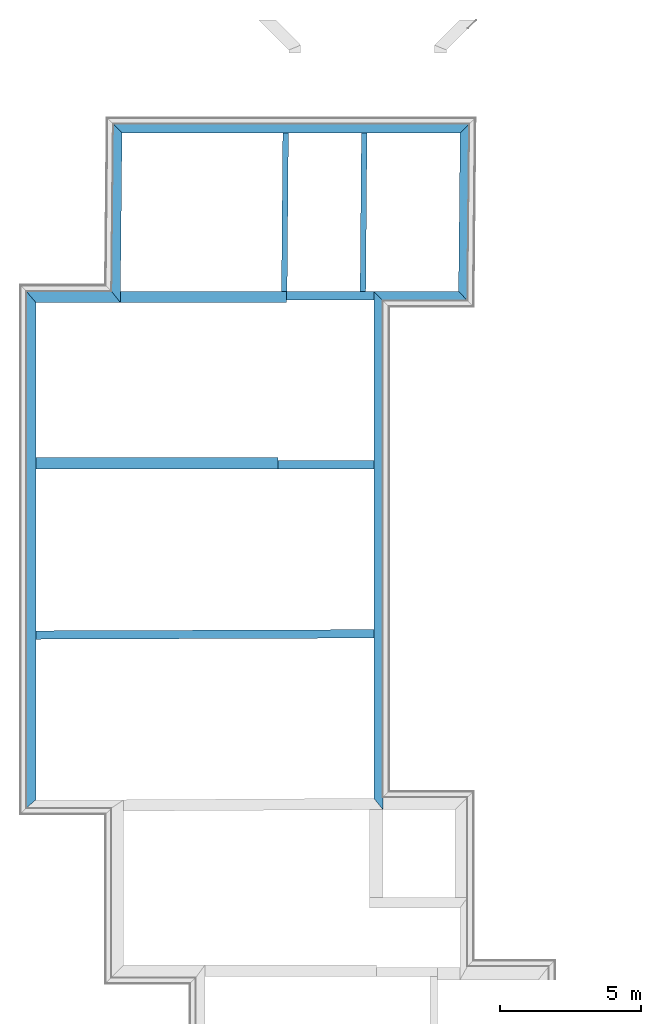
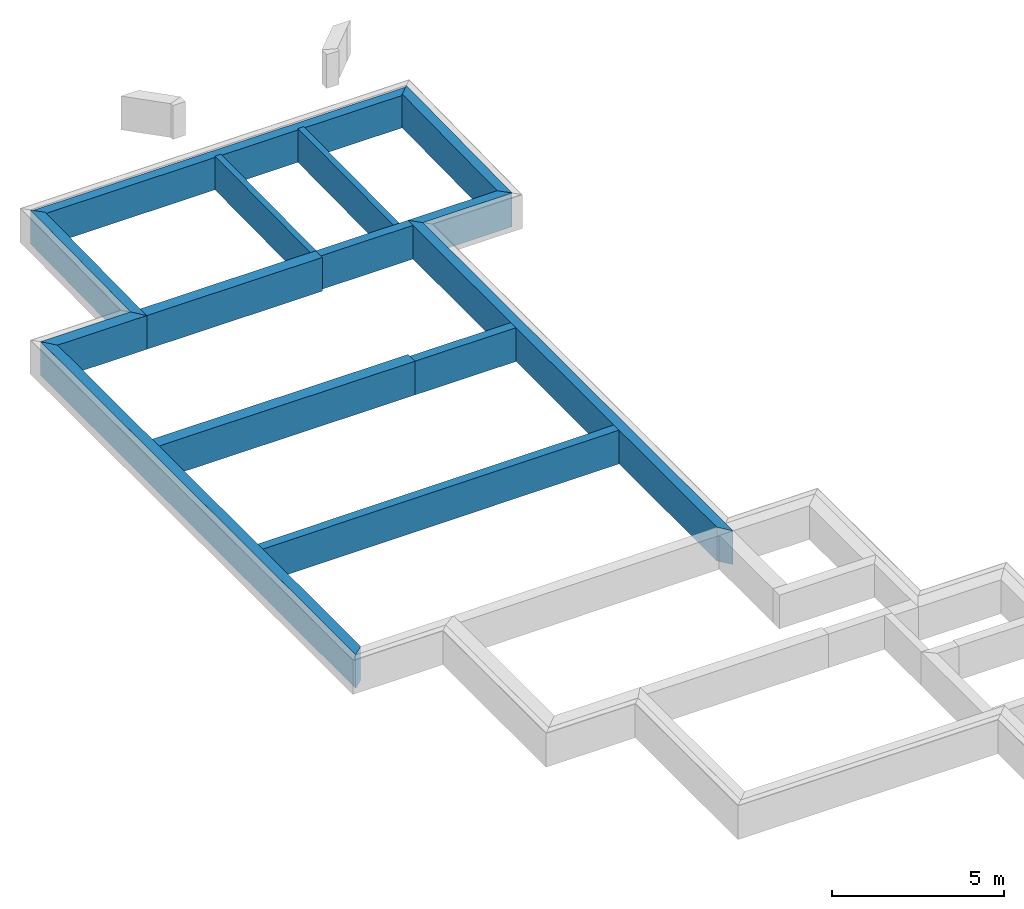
# One storey, part 8 of 16: 14 walls, 4 openings.
"""IFC2X3 building model written with IfcOpenShell, lengths in millimetres."""

from ifc_helpers import new_model, entity, si_unit, converted_unit, derived_unit, money_unit, direction, frame, origin_with_axes, origin_2d_with_axis, place, context, subcontext, project, spatial, polyline, rectangle, outline, extrude, material, layer, layer_set, layer_usage, type_object, element, save


model = new_model("IFC2X3")

# Units and contexts
model_context = context("Model", 3, precision=0.01, world=origin_with_axes(), true_north=direction((0.0, 1.0)))
body_context = subcontext(model_context, "Body", "Model", "MODEL_VIEW")
ifc_project = project(units=[si_unit("LENGTHUNIT", "METRE", prefix="MILLI"), si_unit("AREAUNIT", "SQUARE_METRE"), si_unit("VOLUMEUNIT", "CUBIC_METRE"), converted_unit("PLANEANGLEUNIT", "DEGREE", entity("IfcPlaneAngleMeasure", 0.0174532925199), si_unit("PLANEANGLEUNIT", "RADIAN"), dimensions=[0, 0, 0, 0, 0, 0, 0]), si_unit("SOLIDANGLEUNIT", "STERADIAN"), money_unit("EUR"), converted_unit("TIMEUNIT", "Year", entity("IfcTimeMeasure", 31556926.0), si_unit("TIMEUNIT", "SECOND"), dimensions=[0, 0, 1, 0, 0, 0, 0]), si_unit("MASSUNIT", "GRAM", prefix="KILO"), si_unit("THERMODYNAMICTEMPERATUREUNIT", "DEGREE_CELSIUS"), si_unit("LUMINOUSINTENSITYUNIT", "LUMEN"), si_unit("ENERGYUNIT", "JOULE", prefix="MEGA"), derived_unit("THERMALCONDUCTANCEUNIT", [(si_unit("POWERUNIT", "WATT"), 1), (si_unit("LENGTHUNIT", "METRE"), -1), (si_unit("THERMODYNAMICTEMPERATUREUNIT", "KELVIN"), -1)]), derived_unit("SPECIFICHEATCAPACITYUNIT", [(si_unit("ENERGYUNIT", "JOULE"), 1), (si_unit("MASSUNIT", "GRAM", prefix="KILO"), -1), (si_unit("THERMODYNAMICTEMPERATUREUNIT", "KELVIN"), -1)]), derived_unit("MASSDENSITYUNIT", [(si_unit("MASSUNIT", "GRAM", prefix="KILO"), 1), (si_unit("VOLUMEUNIT", "CUBIC_METRE"), -1)])], contexts=[model_context])

# Site, building, storey
site_placement = place(None, origin_with_axes())
site = spatial("IfcSite", under=ifc_project, at=site_placement, Name="Paldiski mnt 245/1, Tallinn, Harjumaa", CompositionType="COMPLEX")
building_placement = place(site_placement, origin_with_axes())
building = spatial("IfcBuilding", under=site, at=building_placement, Name="RKAS Hoone üldnimetus (kasutust iseloomustav) -> IFC Project Manager -> SOLIBRI", CompositionType="ELEMENT")
storey_placement = place(building_placement, frame((0.0, 0.0, -1200.0), z_axis=(0.0, 0.0, 1.0), x_axis=(1.0, 0.0, 0.0)))
storey = spatial("IfcBuildingStorey", under=building, at=storey_placement, Name="Vundament", CompositionType="ELEMENT", Elevation=-1200.0)

# Walls
ifc_material = material(Name="Olemasolev raudbetoonplokk")
ifc_layer_1 = layer(ifc_material, 320.0, ventilated="UNKNOWN")
ifc_layer_set_1 = layer_set([ifc_layer_1], Name="Olemasolev raudbetoonplokk 320")
ifc_layer_usage_1 = layer_usage(ifc_layer_set_1, "AXIS2", "POSITIVE", 0.0)
wall_type_1 = type_object("IfcWallType", Name="Olemasolev raudbetoonplokk 320", PredefinedType="NOTDEFINED")
wall_1_placement = place(storey_placement, frame((-59329.3073581, 35769.8287244, 0.0), z_axis=(0.0, 0.0, 1.0), x_axis=(1.0, 0.0, 0.0)))
element("IfcWallStandardCase", 1, at=wall_1_placement, inside=storey, type_object=wall_type_1, material=ifc_layer_usage_1, Name="VS-01", context=body_context, shape_type="SweptSolid", body=[
    extrude(outline(polyline([(0.0, 0.0), (12000.60987, 0.0), (12323.8523209, 320.0), (-316.790075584, 320.0), (0.0, 0.0)])), origin_with_axes(), (0.0, 0.0, 1.0), 1150.0),
])
ifc_layer_usage_2 = layer_usage(ifc_layer_set_1, "AXIS2", "POSITIVE", 0.0)
wall_2_placement = place(storey_placement, frame((-59390.0, 29749.8287244, 0.0), z_axis=(0.0, 0.0, 1.0), x_axis=(0.0100813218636, 0.999949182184, 0.0)))
element("IfcWallStandardCase", 2, at=wall_2_placement, inside=storey, type_object=wall_type_1, material=ifc_layer_usage_2, Name="VS-01", context=body_context, shape_type="SweptSolid", body=[
    extrude(outline(polyline([(0.0, 0.0), (6020.3059388, 0.0), (6337.09601439, 320.0), (396.794141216, 320.0), (0.0, 0.0)])), origin_with_axes(), (0.0, 0.0, 1.0), 1200.0),
])

# Wall, openings
ifc_layer_usage_3 = layer_usage(ifc_layer_set_1, "AXIS2", "NEGATIVE", 0.0)
wall_3_placement = place(storey_placement, frame((-50390.0, 11749.8287244, 0.0), z_axis=(0.0, 0.0, 1.0), x_axis=(0.0, 1.0, 0.0)))
wall_3 = element("IfcWallStandardCase", 3, at=wall_3_placement, inside=storey, type_object=wall_type_1, material=ifc_layer_usage_3, Name="VS-01", context=body_context, shape_type="SweptSolid", body=[
    extrude(outline(polyline([(1.79546105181, -320.0), (18070.0, -320.0), (18390.0, 0.0), (400.0, 0.0), (1.79546105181, -320.0)])), origin_with_axes(), (0.0, 0.0, 1.0), 1200.0),
])
opening_1_placement = place(wall_3_placement, frame((14406.9999149, -3.19744231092e-10, 1200.0), z_axis=(0.0, 0.0, 1.0), x_axis=(1.0, 0.0, 0.0)))
element("IfcOpeningElement", 4, at=opening_1_placement, cuts=wall_3, Name="UKS", context=body_context, shape_type="SweptSolid", body=[
    extrude(rectangle(XDim=2980.0, YDim=2100.0, at=origin_2d_with_axis()), frame((0.0, -320.0, 1050.0), z_axis=(0.0, 1.0, 0.0), x_axis=(1.0, 0.0, 0.0)), (0.0, 0.0, -1.0), 320.0),
    extrude(rectangle(XDim=2980.0, YDim=2100.0, at=origin_2d_with_axis()), frame((0.0, -320.0, 1050.0), z_axis=(0.0, -1.0, 0.0), x_axis=(1.0, 0.0, 0.0)), (0.0, 0.0, -1.0), 320.0),
])
opening_2_placement = place(wall_3_placement, frame((9246.99991489, -2.0605739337e-10, 1200.0), z_axis=(0.0, 0.0, 1.0), x_axis=(1.0, 0.0, 0.0)))
element("IfcOpeningElement", 5, at=opening_2_placement, cuts=wall_3, Name="UKS", context=body_context, shape_type="SweptSolid", body=[
    extrude(rectangle(XDim=2980.0, YDim=2100.0, at=origin_2d_with_axis()), frame((0.0, -320.0, 1050.0), z_axis=(0.0, 1.0, 0.0), x_axis=(1.0, 0.0, 0.0)), (0.0, 0.0, -1.0), 320.0),
    extrude(rectangle(XDim=2980.0, YDim=2100.0, at=origin_2d_with_axis()), frame((0.0, -320.0, 1050.0), z_axis=(0.0, -1.0, 0.0), x_axis=(1.0, 0.0, 0.0)), (0.0, 0.0, -1.0), 320.0),
])
opening_3_placement = place(wall_3_placement, frame((3289.99803586, 0.0, 1200.0), z_axis=(0.0, 0.0, 1.0), x_axis=(1.0, 0.0, 0.0)))
element("IfcOpeningElement", 6, at=opening_3_placement, cuts=wall_3, Name="UKS", context=body_context, shape_type="SweptSolid", body=[
    extrude(rectangle(XDim=2980.0, YDim=2100.0, at=origin_2d_with_axis()), frame((0.0, -320.0, 1050.0), z_axis=(0.0, 1.0, 0.0), x_axis=(1.0, 0.0, 0.0)), (0.0, 0.0, -1.0), 320.0),
    extrude(rectangle(XDim=2980.0, YDim=2100.0, at=origin_2d_with_axis()), frame((0.0, -320.0, 1050.0), z_axis=(0.0, -1.0, 0.0), x_axis=(1.0, 0.0, 0.0)), (0.0, 0.0, -1.0), 320.0),
])

# Wall
ifc_layer_usage_4 = layer_usage(ifc_layer_set_1, "AXIS2", "NEGATIVE", 0.0)
wall_4_placement = place(storey_placement, frame((-50390.0, 30139.8287244, 0.0), z_axis=(0.0, 0.0, 1.0), x_axis=(1.0, 0.0, 0.0)))
element("IfcWallStandardCase", 7, at=wall_4_placement, inside=storey, type_object=wall_type_1, material=ifc_layer_usage_4, Name="VS-01", context=body_context, shape_type="SweptSolid", body=[
    extrude(outline(polyline([(320.0, -320.0), (3321.33183429, -320.0), (3004.54176013, 0.0), (0.0, 0.0), (320.0, -320.0)])), origin_with_axes(), (0.0, 0.0, 1.0), 1200.0),
])

# Wall, opening
ifc_layer_usage_5 = layer_usage(ifc_layer_set_1, "AXIS2", "NEGATIVE", 0.0)
wall_5_placement = place(storey_placement, frame((-47385.4582399, 30139.8287244, 0.0), z_axis=(0.0, 0.0, 1.0), x_axis=(0.0100813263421, 0.999949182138, 0.0)))
wall_5 = element("IfcWallStandardCase", 8, at=wall_5_placement, inside=storey, type_object=wall_type_1, material=ifc_layer_usage_5, Name="VS-01", context=body_context, shape_type="SweptSolid", body=[
    extrude(outline(polyline([(-316.790074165, -320.0), (5953.52857002, -320.0), (5630.2861191, 0.0), (0.0, 0.0), (-316.790074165, -320.0)])), origin_with_axes(), (0.0, 0.0, 1.0), 1200.0),
])
opening_4_placement = place(wall_5_placement, frame((1690.5240975, 0.0, 1200.0), z_axis=(0.0, 0.0, 1.0), x_axis=(1.0, 0.0, 0.0)))
element("IfcOpeningElement", 9, at=opening_4_placement, cuts=wall_5, Name="UKS", context=body_context, shape_type="SweptSolid", body=[
    extrude(rectangle(XDim=1500.0, YDim=2100.0, at=origin_2d_with_axis()), frame((0.0, -320.0, 1050.0), z_axis=(0.0, 1.0, 0.0), x_axis=(1.0, 0.0, 0.0)), (0.0, 0.0, -1.0), 320.0),
    extrude(rectangle(XDim=1500.0, YDim=2100.0, at=origin_2d_with_axis()), frame((0.0, -320.0, 1050.0), z_axis=(0.0, -1.0, 0.0), x_axis=(1.0, 0.0, 0.0)), (0.0, 0.0, -1.0), 320.0),
])

# Walls
ifc_layer_2 = layer(ifc_material, 340.0, ventilated="UNKNOWN")
ifc_layer_set_2 = layer_set([ifc_layer_2], Name="Olemasolev raudbetoonplokk 340")
ifc_layer_usage_6 = layer_usage(ifc_layer_set_2, "AXIS2", "POSITIVE", 0.0)
wall_type_2 = type_object("IfcWallType", Name="Olemasolev raudbetoonplokk 340", PredefinedType="NOTDEFINED")
wall_6_placement = place(storey_placement, frame((-62390.0, 12099.8287244, 0.0), z_axis=(0.0, 0.0, 1.0), x_axis=(0.0, 1.0, 0.0)))
element("IfcWallStandardCase", 10, at=wall_6_placement, inside=storey, type_object=wall_type_2, material=ifc_layer_usage_6, Name="VS-01", context=body_context, shape_type="SweptSolid", body=[
    extrude(outline(polyline([(0.0, 0.0), (17650.0, 0.0), (18050.0, 340.0), (-300.0, 340.0), (0.0, 0.0)])), origin_with_axes(), (0.0, 0.0, 1.0), 1200.0),
])
ifc_layer_3 = layer(ifc_material, 400.0, ventilated="UNKNOWN")
ifc_layer_set_3 = layer_set([ifc_layer_3], Name="Olemasolev raudbetoonplokk 400")
ifc_layer_usage_7 = layer_usage(ifc_layer_set_3, "AXIS2", "POSITIVE", 0.0)
wall_type_3 = type_object("IfcWallType", Name="Olemasolev raudbetoonplokk 400", PredefinedType="NOTDEFINED")
wall_7_placement = place(storey_placement, frame((-62390.0, 29749.8287244, 0.0), z_axis=(0.0, 0.0, 1.0), x_axis=(1.0, 0.0, 0.0)))
element("IfcWallStandardCase", 11, at=wall_7_placement, inside=storey, type_object=wall_type_3, material=ifc_layer_usage_7, Name="VS-01", context=body_context, shape_type="SweptSolid", body=[
    extrude(outline(polyline([(0.0, 0.0), (3000.0, 0.0), (2684.01647115, 400.0), (-340.0, 400.0), (0.0, 0.0)])), origin_with_axes(), (0.0, 0.0, 1.0), 1200.0),
])
ifc_layer_usage_8 = layer_usage(ifc_layer_set_3, "AXIS2", "NEGATIVE", 0.0)
wall_8_placement = place(storey_placement, frame((-62390.0000031, 24239.3310636, 0.0), z_axis=(0.0, 0.0, 1.0), x_axis=(1.0, 0.0, 0.0)))
element("IfcWallStandardCase", 12, at=wall_8_placement, inside=storey, type_object=wall_type_3, material=ifc_layer_usage_8, Name="Vundament", context=body_context, shape_type="SweptSolid", body=[
    extrude(outline(polyline([(3.06796721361e-06, -400.0), (8600.00000307, -400.0), (8600.00000307, 0.0), (3.06796010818e-06, 0.0), (3.06796721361e-06, -400.0)])), origin_with_axes(), (0.0, 0.0, 1.0), 1200.0),
])
ifc_layer_4 = layer(ifc_material, 300.0, ventilated="UNKNOWN")
ifc_layer_set_4 = layer_set([ifc_layer_4], Name="Olemasolev raudbetoonplokk 300")
ifc_layer_usage_9 = layer_usage(ifc_layer_set_4, "AXIS2", "NEGATIVE", 0.0)
wall_type_4 = type_object("IfcWallType", Name="Olemasolev raudbetoonplokk 300", PredefinedType="NOTDEFINED")
wall_9_placement = place(storey_placement, frame((-53790.0, 24139.8287244, 0.0), z_axis=(0.0, 0.0, 1.0), x_axis=(1.0, 0.0, 0.0)))
element("IfcWallStandardCase", 13, at=wall_9_placement, inside=storey, type_object=wall_type_4, material=ifc_layer_usage_9, Name="Vundament", context=body_context, shape_type="SweptSolid", body=[
    extrude(outline(polyline([(0.0, -300.0), (3400.0, -300.0), (3400.0, 0.0), (0.0, 0.0), (0.0, -300.0)])), origin_with_axes(), (0.0, 0.0, 1.0), 1200.0),
])
ifc_layer_usage_10 = layer_usage(ifc_layer_set_4, "AXIS2", "NEGATIVE", 0.0)
wall_10_placement = place(storey_placement, frame((-62390.0, 18096.4054606, 0.0), z_axis=(0.0, 0.0, 1.0), x_axis=(0.999993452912, 0.00361858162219, 0.0)))
element("IfcWallStandardCase", 14, at=wall_10_placement, inside=storey, type_object=wall_type_4, material=ifc_layer_usage_10, Name="Vundament", context=body_context, shape_type="SweptSolid", body=[
    extrude(outline(polyline([(-1.08558159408, -300.0), (11998.992984, -300.0), (12000.0785656, 0.0), (0.0, 0.0), (-1.08558159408, -300.0)])), origin_with_axes(), (0.0, 0.0, 1.0), 1200.0),
])
ifc_layer_usage_11 = layer_usage(ifc_layer_set_4, "AXIS2", "NEGATIVE", 0.0)
wall_11_placement = place(storey_placement, frame((-53490.0, 30139.8287244, 0.0), z_axis=(0.0, 0.0, 1.0), x_axis=(1.0, 0.0, 0.0)))
element("IfcWallStandardCase", 15, at=wall_11_placement, inside=storey, type_object=wall_type_4, material=ifc_layer_usage_11, Name="Vundament", context=body_context, shape_type="SweptSolid", body=[
    extrude(outline(polyline([(0.0, -300.0), (3100.0, -300.0), (3100.0, 0.0), (0.0, 0.0), (0.0, -300.0)])), origin_with_axes(), (0.0, 0.0, 1.0), 1200.0),
])
ifc_layer_5 = layer(ifc_material, 200.0, ventilated="UNKNOWN")
ifc_layer_set_5 = layer_set([ifc_layer_5], Name="Olemasolev raudbetoonplokk 200")
ifc_layer_usage_12 = layer_usage(ifc_layer_set_5, "AXIS2", "NEGATIVE", 0.0)
wall_type_5 = type_object("IfcWallType", Name="Olemasolev raudbetoonplokk 200", PredefinedType="NOTDEFINED")
wall_12_placement = place(storey_placement, frame((-50879.9544371, 30139.8287499, 0.0), z_axis=(0.0, 0.0, 1.0), x_axis=(0.00837214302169, 0.999964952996, 0.0)))
element("IfcWallStandardCase", 16, at=wall_12_placement, inside=storey, type_object=wall_type_5, material=ifc_layer_usage_12, Name="Vundament", context=body_context, shape_type="SweptSolid", body=[
    extrude(outline(polyline([(1.67446174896, -200.0), (5631.87178329, -200.0), (5630.197296, 0.0), (-2.55411372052e-05, 0.0), (1.67446174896, -200.0)])), origin_with_axes(), (0.0, 0.0, 1.0), 1200.0),
])
ifc_layer_usage_13 = layer_usage(ifc_layer_set_5, "AXIS2", "NEGATIVE", 0.0)
wall_13_placement = place(storey_placement, frame((-53669.9544373, 30139.8287244, 0.0), z_axis=(0.0, 0.0, 1.0), x_axis=(0.00837214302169, 0.999964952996, 0.0)))
element("IfcWallStandardCase", 17, at=wall_13_placement, inside=storey, type_object=wall_type_5, material=ifc_layer_usage_13, Name="Vundament", context=body_context, shape_type="SweptSolid", body=[
    extrude(outline(polyline([(1.6744872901, -200.0), (5631.87180884, -200.0), (5630.19732155, 0.0), (0.0, 0.0), (1.6744872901, -200.0)])), origin_with_axes(), (0.0, 0.0, 1.0), 1200.0),
])
ifc_layer_6 = layer(ifc_material, 390.0, ventilated="UNKNOWN")
ifc_layer_set_6 = layer_set([ifc_layer_6], Name="Olemasolev raudbetoonplokk 390")
ifc_layer_usage_14 = layer_usage(ifc_layer_set_6, "AXIS2", "NEGATIVE", 0.0)
wall_type_6 = type_object("IfcWallType", Name="Olemasolev raudbetoonplokk 390", PredefinedType="NOTDEFINED")
wall_14_placement = place(storey_placement, frame((-59386.0680847, 30139.8287244, 0.0), z_axis=(0.0, 0.0, 1.0), x_axis=(1.0, 0.0, 0.0)))
element("IfcWallStandardCase", 18, at=wall_14_placement, inside=storey, type_object=wall_type_6, material=ifc_layer_usage_14, Name="Vundament", context=body_context, shape_type="SweptSolid", body=[
    extrude(outline(polyline([(-3.93191533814, -390.0), (5896.06808466, -390.0), (5896.06808466, 0.0), (0.0, 0.0), (-3.93191533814, -390.0)])), origin_with_axes(), (0.0, 0.0, 1.0), 1200.0),
])

save(model, "model.ifc")
